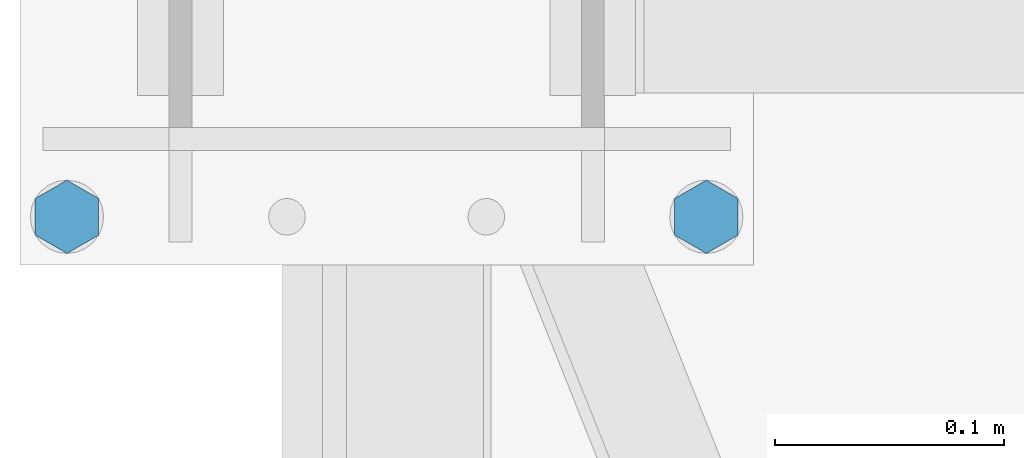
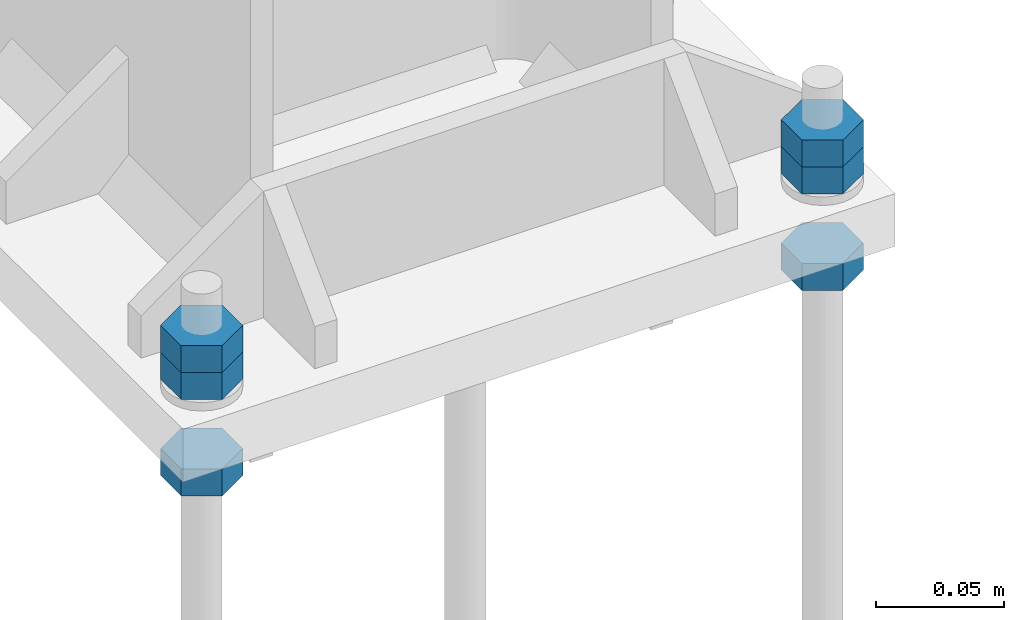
# One storey, part 118 of 251: 6 mechanical fasteners.
"""IFC4 building model written with IfcOpenShell, lengths in metres."""

import ifcopenshell
import ifcopenshell.guid

model = None  # the IFC model being written
_history = None  # IfcOwnerHistory: only IFC2X3 demands one
_inside = {}  # id of a spatial element -> (the spatial element, [elements in it])
_under = {}  # id of a project, library or spatial element -> (it, [spatial elements below it])
_declared = {}  # id of a project -> (the project, [libraries it declares])
_typed = {}  # id of a type object -> (the type object, [elements of that type])
_made_of = {}  # id of a material, layer set ... -> (it, [elements and type objects made of it])


def new_model(schema):
    """Start an empty IFC model of exactly this schema.

    Asked for "IFC4X3", IfcOpenShell would pick the latest addendum, in which some entities
    have other attributes; the version numbers below select the first issue.
    IFC2X3 requires an IfcOwnerHistory on every rooted entity: one is made here for all.
    """
    global model, _history
    if schema == "IFC4X3":
        model = ifcopenshell.file(schema_version=(4, 3, 0, 0))
    else:
        model = ifcopenshell.file(schema=schema)
    _inside.clear()
    _under.clear()
    _declared.clear()
    _typed.clear()
    _made_of.clear()
    _history = None
    if model.schema == "IFC2X3":
        org = make("IfcOrganization", Name="unknown")
        user = make(
            "IfcPersonAndOrganization",
            ThePerson=make("IfcPerson", FamilyName="unknown"),
            TheOrganization=org,
        )
        app = make(
            "IfcApplication",
            ApplicationDeveloper=org,
            Version="unknown",
            ApplicationFullName="unknown",
            ApplicationIdentifier="unknown",
        )
        _history = make(
            "IfcOwnerHistory",
            OwningUser=user,
            OwningApplication=app,
            ChangeAction="ADDED",
            CreationDate=0,
        )
    return model


def make(cls, **values):
    """One entity of the class cls with the attributes given. An attribute that is None is left unset."""
    return model.create_entity(
        cls, **{name: value for name, value in values.items() if value is not None}
    )


def rooted(cls, **values):
    """An entity with a GlobalId (a new one), such as an element, a storey or a relation."""
    return make(cls, GlobalId=ifcopenshell.guid.new(), OwnerHistory=_history, **values)


def si_unit(unit_type, name, prefix=None):
    """IfcSIUnit, for example si_unit("LENGTHUNIT", "METRE", prefix="MILLI")."""
    return make("IfcSIUnit", UnitType=unit_type, Prefix=prefix, Name=name)


def assignment(units):
    """IfcUnitAssignment: the units of a project."""
    return None if units is None else make("IfcUnitAssignment", Units=units)


def point(xyz):
    """IfcCartesianPoint."""
    return None if xyz is None else make("IfcCartesianPoint", Coordinates=xyz)


def direction(xyz):
    """IfcDirection."""
    return None if xyz is None else make("IfcDirection", DirectionRatios=xyz)


def frame(location, z_axis=None, x_axis=None):
    """IfcAxis2Placement3D, a coordinate frame: its origin and axes. An axis left out is left unset."""
    return make(
        "IfcAxis2Placement3D",
        Location=point(location),
        Axis=direction(z_axis),
        RefDirection=direction(x_axis),
    )


def origin_with_axes():
    """The frame at (0, 0, 0) with the z axis (0, 0, 1) and the x axis (1, 0, 0) written out."""
    return frame((0.0, 0.0, 0.0), z_axis=(0.0, 0.0, 1.0), x_axis=(1.0, 0.0, 0.0))


def place(relative_to, where):
    """IfcLocalPlacement: puts the frame where relative to a parent placement (None: the world)."""
    return make(
        "IfcLocalPlacement", PlacementRelTo=relative_to, RelativePlacement=where
    )


def context(
    kind, dimensions, precision=None, world=None, true_north=None, identifier=None
):
    """IfcGeometricRepresentationContext, for example the 3D "Model" context."""
    return make(
        "IfcGeometricRepresentationContext",
        ContextIdentifier=identifier,
        ContextType=kind,
        CoordinateSpaceDimension=dimensions,
        Precision=precision,
        WorldCoordinateSystem=world,
        TrueNorth=true_north,
    )


def project(units=None, contexts=None):
    """IfcProject with its units and contexts."""
    return rooted(
        "IfcProject",
        Name="project",
        RepresentationContexts=contexts,
        UnitsInContext=assignment(units),
    )


def spatial(cls, under=None, at=None, **own):
    """A site, building, storey or space (cls), placed at a placement, below another one or the project."""
    s = rooted(cls, ObjectPlacement=at, **own)
    if under is not None:
        _under.setdefault(under.id(), (under, []))[1].append(s)
    return s


def polyline(points):
    """IfcPolyline through the points."""
    return make("IfcPolyline", Points=[point(p) for p in points])


def outline(outer, holes=None, kind="AREA"):
    """IfcArbitraryClosedProfileDef: a profile drawn as a closed curve; with holes, ...WithVoids."""
    if holes is None:
        return make("IfcArbitraryClosedProfileDef", ProfileType=kind, OuterCurve=outer)
    return make(
        "IfcArbitraryProfileDefWithVoids",
        ProfileType=kind,
        OuterCurve=outer,
        InnerCurves=holes,
    )


def extrude(swept, where, along, depth):
    """IfcExtrudedAreaSolid: the profile swept, set in the frame where, extruded along a direction by depth."""
    return make(
        "IfcExtrudedAreaSolid",
        SweptArea=swept,
        Position=where,
        ExtrudedDirection=direction(along),
        Depth=depth,
    )


def shape(context_of_items, identifier, shape_type, items):
    """IfcShapeRepresentation: the items that make up one representation, for example the "Body"."""
    return make(
        "IfcShapeRepresentation",
        ContextOfItems=context_of_items,
        RepresentationIdentifier=identifier,
        RepresentationType=shape_type,
        Items=items,
    )


def made_of(thing, what):
    """Note that an element or type object is made of a material, layer set ...; save() writes the relation."""
    if what is not None:
        _made_of.setdefault(what.id(), (what, []))[1].append(thing)
    return thing


def type_object(cls, material=None, **own):
    """A type object (cls), such as IfcWallType, which elements share."""
    return made_of(rooted(cls, **own), material)


def element(
    cls,
    number,
    at=None,
    inside=None,
    cuts=None,
    type_object=None,
    material=None,
    context=None,
    identifier="Body",
    shape_type=None,
    held_by="IfcProductDefinitionShape",
    body=None,
    shapes=None,
    **own,
):
    """One element of the class cls, such as IfcWall. Its Tag is "e" and its number.

    at: its placement. inside: the storey or other place that contains it. cuts: it is an
    opening in that element (IfcRelVoidsElement). A single representation is given by context,
    identifier, shape_type and body (its items); several are given by shapes. held_by: the class
    of the entity that holds the representations. save() writes the other relations.
    """
    e = rooted(cls, Tag="e%d" % number, ObjectPlacement=at, **own)
    if body is not None:
        shapes = [shape(context, identifier, shape_type, body)]
    if shapes is not None:
        e.Representation = make(held_by, Representations=shapes)
    if inside is not None:
        _inside.setdefault(inside.id(), (inside, []))[1].append(e)
    if cuts is not None:
        rooted(
            "IfcRelVoidsElement", RelatingBuildingElement=cuts, RelatedOpeningElement=e
        )
    if type_object is not None:
        _typed.setdefault(type_object.id(), (type_object, []))[1].append(e)
    return made_of(e, material)


def aggregate(whole, parts):
    """IfcRelAggregates: a whole, such as a stair, and the parts it consists of."""
    return rooted("IfcRelAggregates", RelatingObject=whole, RelatedObjects=parts)


def save(model, path):
    """Write the relations noted so far, then the file.

    IfcRelAggregates (storeys below a building ...), IfcRelContainedInSpatialStructure (elements
    in a storey), IfcRelDefinesByType, IfcRelAssociatesMaterial and IfcRelDeclares: one each for
    every whole, place, type object, material and project.
    """
    for whole, parts in _under.values():
        aggregate(whole, parts)
    for where, things in _inside.values():
        rooted(
            "IfcRelContainedInSpatialStructure",
            RelatedElements=things,
            RelatingStructure=where,
        )
    for kind, things in _typed.values():
        rooted("IfcRelDefinesByType", RelatedObjects=things, RelatingType=kind)
    for what, things in _made_of.values():
        rooted("IfcRelAssociatesMaterial", RelatedObjects=things, RelatingMaterial=what)
    for by, libraries in _declared.values():
        rooted("IfcRelDeclares", RelatingContext=by, RelatedDefinitions=libraries)
    model.write(path)


model = new_model("IFC4")

# Units and contexts
model_context = context("Model", 3, precision=1e-05, world=origin_with_axes())
ifc_project = project(units=[si_unit("LENGTHUNIT", "METRE"), si_unit("AREAUNIT", "SQUARE_METRE"), si_unit("VOLUMEUNIT", "CUBIC_METRE"), si_unit("MASSUNIT", "GRAM", prefix="KILO"), si_unit("TIMEUNIT", "SECOND"), si_unit("PLANEANGLEUNIT", "RADIAN"), si_unit("SOLIDANGLEUNIT", "STERADIAN"), si_unit("THERMODYNAMICTEMPERATUREUNIT", "DEGREE_CELSIUS")], contexts=[model_context])

# Site, building, storey
placement_1 = place(None, origin_with_axes())
site = spatial("IfcSite", under=ifc_project, at=placement_1, Name="Italia", CompositionType="ELEMENT")
building = spatial("IfcBuilding", under=site, at=placement_1, Name="Deposito", CompositionType="ELEMENT")
storey = spatial("IfcBuildingStorey", under=building, at=placement_1, Name="Storey 0", CompositionType="ELEMENT", Elevation=0.0)

# Mechanical fasteners
mechanical_fastener_type_1 = type_object("IfcMechanicalFastenerType", Name="Collegamenti 0014_-001 0016_-054 0018_-056 0032_-002 0033_-058 0047_-003 0048_-060 0062_-004 0063_-005 0079_-008", PredefinedType="BOLT")
placement_2 = place(placement_1, origin_with_axes())
mechanical_fastener_1_placement = place(placement_2, origin_with_axes())
element("IfcMechanicalFastener", 1, at=mechanical_fastener_1_placement, inside=storey, type_object=mechanical_fastener_type_1, Name="Collegamenti 0014_-001 0016_-054 0018_-056 0032_-002 0033_-058 0047_-003 0048_-060 0062_-004 0063_-005 0079_-008", NominalDiameter=0.0160001, context=model_context, shape_type="SweptSolid", body=[
    extrude(outline(polyline([(0.0, 0.0), (-0.0160007, 0.0), (-0.0240002, 0.0138569), (-0.0160007, 0.0277138), (0.0, 0.0277138), (0.00799942, 0.0138569), (0.0, 0.0)])), frame((6.20336, 9.869, 0.079), z_axis=(0.0, 0.0, 1.0), x_axis=(0.0, 1.0, 0.0)), (0.0, 0.0, 1.0), 0.0128),
])
mechanical_fastener_type_2 = type_object("IfcMechanicalFastenerType", Name="Collegamenti 0014_-001 0016_-054 0018_-056 0032_-002 0033_-058 0047_-003 0048_-060 0062_-004 0063_-005 0079_-008", PredefinedType="BOLT")
mechanical_fastener_2_placement = place(placement_2, origin_with_axes())
element("IfcMechanicalFastener", 2, at=mechanical_fastener_2_placement, inside=storey, type_object=mechanical_fastener_type_2, Name="Collegamenti 0014_-001 0016_-054 0018_-056 0032_-002 0033_-058 0047_-003 0048_-060 0062_-004 0063_-005 0079_-008", NominalDiameter=0.0160001, context=model_context, shape_type="SweptSolid", body=[
    extrude(outline(polyline([(0.0, 0.0), (-0.0160007, 0.0), (-0.0240002, 0.0138569), (-0.0160007, 0.0277138), (0.0, 0.0277138), (0.00799942, 0.0138569), (0.0, 0.0)])), frame((6.20336, 9.869, 0.0918), z_axis=(0.0, 0.0, 1.0), x_axis=(0.0, 1.0, 0.0)), (0.0, 0.0, 1.0), 0.0128),
])
mechanical_fastener_type_3 = type_object("IfcMechanicalFastenerType", Name="Collegamenti 0014_-001 0016_-054 0018_-056 0032_-002 0033_-058 0047_-003 0048_-060 0062_-004 0063_-005 0079_-008", PredefinedType="BOLT")
mechanical_fastener_3_placement = place(placement_2, origin_with_axes())
element("IfcMechanicalFastener", 3, at=mechanical_fastener_3_placement, inside=storey, type_object=mechanical_fastener_type_3, Name="Collegamenti 0014_-001 0016_-054 0018_-056 0032_-002 0033_-058 0047_-003 0048_-060 0062_-004 0063_-005 0079_-008", NominalDiameter=0.0160001, context=model_context, shape_type="SweptSolid", body=[
    extrude(outline(polyline([(0.0, 0.0), (-0.0160007, 0.0), (-0.0240002, 0.0138569), (-0.0160007, 0.0277138), (0.0, 0.0277138), (0.00799942, 0.0138569), (0.0, 0.0)])), frame((6.20336, 9.869, 0.0332), z_axis=(0.0, 0.0, 1.0), x_axis=(0.0, 1.0, 0.0)), (0.0, 0.0, 1.0), 0.0128),
])
mechanical_fastener_type_4 = type_object("IfcMechanicalFastenerType", Name="Collegamenti 0014_-001 0016_-054 0018_-056 0032_-002 0033_-058 0047_-003 0048_-060 0062_-004 0063_-005 0079_-008", PredefinedType="BOLT")
mechanical_fastener_4_placement = place(placement_2, origin_with_axes())
element("IfcMechanicalFastener", 4, at=mechanical_fastener_4_placement, inside=storey, type_object=mechanical_fastener_type_4, Name="Collegamenti 0014_-001 0016_-054 0018_-056 0032_-002 0033_-058 0047_-003 0048_-060 0062_-004 0063_-005 0079_-008", NominalDiameter=0.0160001, context=model_context, shape_type="SweptSolid", body=[
    extrude(outline(polyline([(0.0, 0.0), (-0.0160007, 0.0), (-0.0240002, 0.0138569), (-0.0160007, 0.0277138), (0.0, 0.0277138), (0.00799942, 0.0138569), (0.0, 0.0)])), frame((5.92436, 9.869, 0.079), z_axis=(0.0, 0.0, 1.0), x_axis=(0.0, 1.0, 0.0)), (0.0, 0.0, 1.0), 0.0128),
])
mechanical_fastener_type_5 = type_object("IfcMechanicalFastenerType", Name="Collegamenti 0014_-001 0016_-054 0018_-056 0032_-002 0033_-058 0047_-003 0048_-060 0062_-004 0063_-005 0079_-008", PredefinedType="BOLT")
mechanical_fastener_5_placement = place(placement_2, origin_with_axes())
element("IfcMechanicalFastener", 5, at=mechanical_fastener_5_placement, inside=storey, type_object=mechanical_fastener_type_5, Name="Collegamenti 0014_-001 0016_-054 0018_-056 0032_-002 0033_-058 0047_-003 0048_-060 0062_-004 0063_-005 0079_-008", NominalDiameter=0.0160001, context=model_context, shape_type="SweptSolid", body=[
    extrude(outline(polyline([(0.0, 0.0), (-0.0160007, 0.0), (-0.0240002, 0.0138569), (-0.0160007, 0.0277138), (0.0, 0.0277138), (0.00799942, 0.0138569), (0.0, 0.0)])), frame((5.92436, 9.869, 0.0918), z_axis=(0.0, 0.0, 1.0), x_axis=(0.0, 1.0, 0.0)), (0.0, 0.0, 1.0), 0.0128),
])
mechanical_fastener_type_6 = type_object("IfcMechanicalFastenerType", Name="Collegamenti 0014_-001 0016_-054 0018_-056 0032_-002 0033_-058 0047_-003 0048_-060 0062_-004 0063_-005 0079_-008", PredefinedType="BOLT")
mechanical_fastener_6_placement = place(placement_2, origin_with_axes())
element("IfcMechanicalFastener", 6, at=mechanical_fastener_6_placement, inside=storey, type_object=mechanical_fastener_type_6, Name="Collegamenti 0014_-001 0016_-054 0018_-056 0032_-002 0033_-058 0047_-003 0048_-060 0062_-004 0063_-005 0079_-008", NominalDiameter=0.0160001, context=model_context, shape_type="SweptSolid", body=[
    extrude(outline(polyline([(0.0, 0.0), (-0.0160007, 0.0), (-0.0240002, 0.0138569), (-0.0160007, 0.0277138), (0.0, 0.0277138), (0.00799942, 0.0138569), (0.0, 0.0)])), frame((5.92436, 9.869, 0.0332), z_axis=(0.0, 0.0, 1.0), x_axis=(0.0, 1.0, 0.0)), (0.0, 0.0, 1.0), 0.0128),
])

save(model, "model.ifc")
